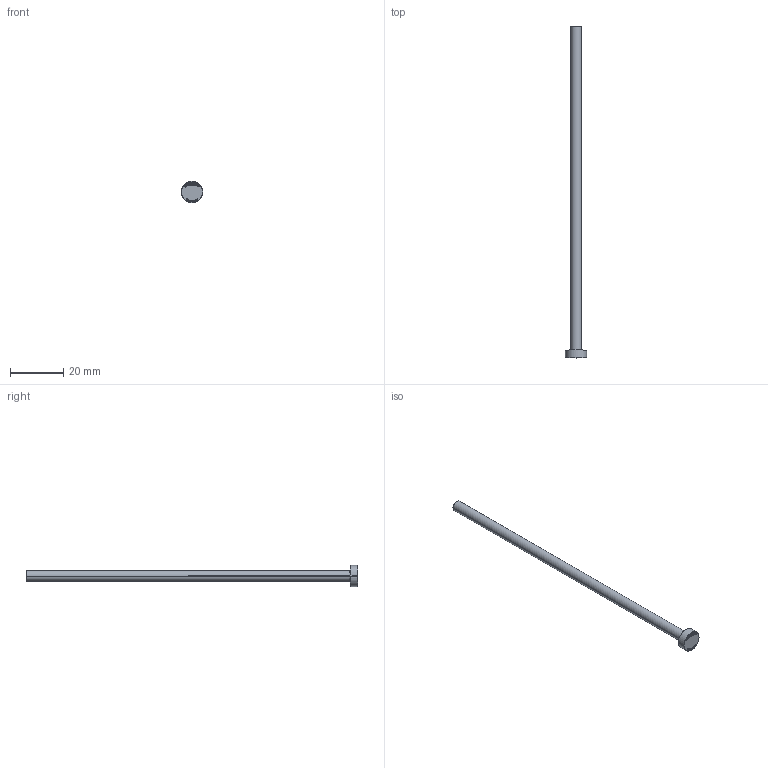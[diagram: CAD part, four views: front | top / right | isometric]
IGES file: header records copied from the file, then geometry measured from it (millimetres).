
Start section: SolidWorks IGES file using analytic representation for surfaces
Global section: file name: C:\Users\User\Downloads\Matripeça 31-08 tar\PB - PINO EXTRATOR TIPO _B_ (CATÁLOGO)\PB04,0\PB04,0125.IGS; native system: SolidWorks 2024; preprocessor: SolidWorks 2024; author: User; date: 260901.141924; units: millimetre
Bounding box: 8 x 125 x 8 mm (x, y, z)
Surface area: 1713.7 mm2 (no closed solid volume)
Topology: 0 solids, 0 shells, 402 faces, 3320 edges, 3320 vertices
Faces by surface type: bspline 388, revolution 14
